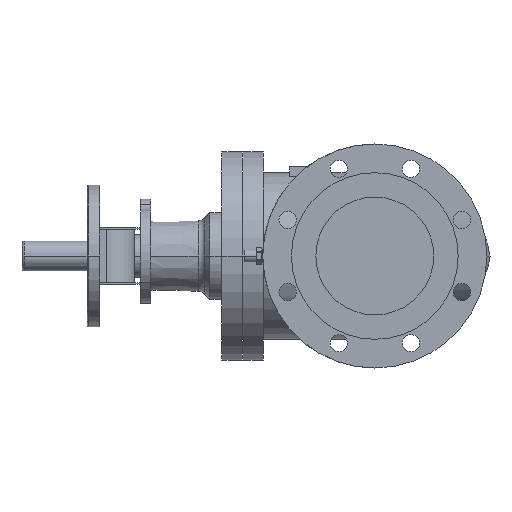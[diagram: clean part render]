
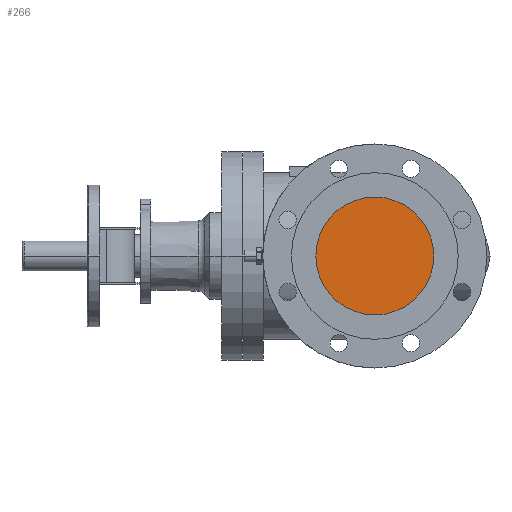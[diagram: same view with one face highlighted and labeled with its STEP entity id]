
A CAD part, left-side view. The second image highlights one B-rep face of the part: STEP entity #266.
In plain terms, the highlighted planar face has unit normal (-1, 0, 0).
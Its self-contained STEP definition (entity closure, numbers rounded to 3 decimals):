
#266 = ADVANCED_FACE( '', ( #709 ), #710, .T. );
#709 = FACE_OUTER_BOUND( '', #1174, .T. );
#710 = PLANE( '', #1175 );
#1174 = EDGE_LOOP( '', ( #2793, #2794 ) );
#1175 = AXIS2_PLACEMENT_3D( '', #2795, #2796, #2797 );
#2793 = ORIENTED_EDGE( '', *, *, #3424, .T. );
#2794 = ORIENTED_EDGE( '', *, *, #2935, .T. );
#2795 = CARTESIAN_POINT( '', ( 1., 37.5, 0. ) );
#2796 = DIRECTION( '', ( -1., 0., 0. ) );
#2797 = DIRECTION( '', ( 0., 1., 0. ) );
#2935 = EDGE_CURVE( '', #3511, #3508, #3512, .T. );
#3424 = EDGE_CURVE( '', #3508, #3511, #4319, .T. );
#3508 = VERTEX_POINT( '', #4421 );
#3511 = VERTEX_POINT( '', #4425 );
#3512 = CIRCLE( '', #4426, 75. );
#4319 = CIRCLE( '', #6257, 75. );
#4421 = CARTESIAN_POINT( '', ( 1., 75., 0. ) );
#4425 = CARTESIAN_POINT( '', ( 1., -75., 0. ) );
#4426 = AXIS2_PLACEMENT_3D( '', #6342, #6343, #6344 );
#6257 = AXIS2_PLACEMENT_3D( '', #7259, #7260, #7261 );
#6342 = CARTESIAN_POINT( '', ( 1., 0., 0. ) );
#6343 = DIRECTION( '', ( -1., 0., 0. ) );
#6344 = DIRECTION( '', ( 0., 1., 0. ) );
#7259 = CARTESIAN_POINT( '', ( 1., 0., 0. ) );
#7260 = DIRECTION( '', ( -1., 0., 0. ) );
#7261 = DIRECTION( '', ( 0., 1., 0. ) );
